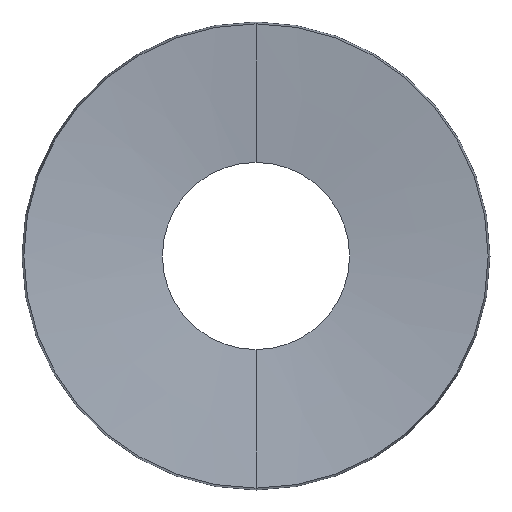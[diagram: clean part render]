
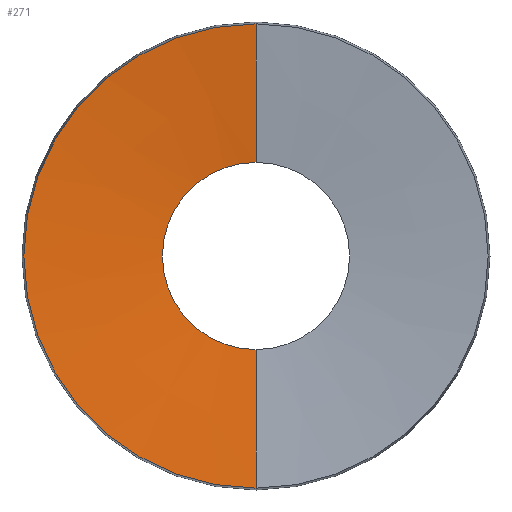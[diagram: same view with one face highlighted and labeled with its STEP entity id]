
A CAD part, front view. The second image highlights one B-rep face of the part: STEP entity #271.
In plain terms, the highlighted conical face has half-angle 83.934 degrees and reference radius 1.6 mm.
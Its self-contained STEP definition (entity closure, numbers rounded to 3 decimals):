
#36 = ORIENTED_EDGE ( 'NONE', *, *, #202, .F. ) ;
#50 = CARTESIAN_POINT ( 'NONE',  ( 0., 0., 3.968 ) ) ;
#51 = DIRECTION ( 'NONE',  ( 0., -0.106, -0.994 ) ) ;
#59 = DIRECTION ( 'NONE',  ( 0., 0., -1. ) ) ;
#60 = CARTESIAN_POINT ( 'NONE',  ( 0., 0.252, -1.6 ) ) ;
#62 = CIRCLE ( 'NONE', #232, 1.6 ) ;
#67 = CARTESIAN_POINT ( 'NONE',  ( 0., 0., 0. ) ) ;
#74 = CARTESIAN_POINT ( 'NONE',  ( 0., 0., -3.968 ) ) ;
#82 = CARTESIAN_POINT ( 'NONE',  ( 0., 0.252, 0. ) ) ;
#96 = DIRECTION ( 'NONE',  ( 0., -1., 0. ) ) ;
#99 = AXIS2_PLACEMENT_3D ( 'NONE', #67, #96, #59 ) ;
#118 = DIRECTION ( 'NONE',  ( 0., 0., -1. ) ) ;
#124 = CONICAL_SURFACE ( 'NONE', #258, 1.6, 1.465 ) ;
#132 = VERTEX_POINT ( 'NONE', #60 ) ;
#134 = VERTEX_POINT ( 'NONE', #50 ) ;
#135 = ORIENTED_EDGE ( 'NONE', *, *, #272, .F. ) ;
#144 = CARTESIAN_POINT ( 'NONE',  ( 0., 0.252, 1.6 ) ) ;
#145 = CIRCLE ( 'NONE', #99, 3.968 ) ;
#151 = LINE ( 'NONE', #190, #205 ) ;
#162 = DIRECTION ( 'NONE',  ( 0., -1., 0. ) ) ;
#178 = LINE ( 'NONE', #144, #286 ) ;
#186 = DIRECTION ( 'NONE',  ( 0., -1., 0. ) ) ;
#190 = CARTESIAN_POINT ( 'NONE',  ( 0., 0.252, -1.6 ) ) ;
#195 = EDGE_CURVE ( 'NONE', #134, #264, #145, .T. ) ;
#198 = DIRECTION ( 'NONE',  ( 0., -0.106, 0.994 ) ) ;
#202 = EDGE_CURVE ( 'NONE', #132, #264, #151, .T. ) ;
#205 = VECTOR ( 'NONE', #51, 1000. ) ;
#211 = FACE_OUTER_BOUND ( 'NONE', #250, .T. ) ;
#212 = CARTESIAN_POINT ( 'NONE',  ( 0., 0.252, 0. ) ) ;
#221 = VERTEX_POINT ( 'NONE', #263 ) ;
#232 = AXIS2_PLACEMENT_3D ( 'NONE', #212, #162, #253 ) ;
#237 = ORIENTED_EDGE ( 'NONE', *, *, #195, .T. ) ;
#250 = EDGE_LOOP ( 'NONE', ( #135, #284, #237, #36 ) ) ;
#253 = DIRECTION ( 'NONE',  ( 0., 0., -1. ) ) ;
#258 = AXIS2_PLACEMENT_3D ( 'NONE', #82, #186, #118 ) ;
#263 = CARTESIAN_POINT ( 'NONE',  ( 0., 0.252, 1.6 ) ) ;
#264 = VERTEX_POINT ( 'NONE', #74 ) ;
#271 = ADVANCED_FACE ( 'NONE', ( #211 ), #124, .F. ) ;
#272 = EDGE_CURVE ( 'NONE', #221, #132, #62, .T. ) ;
#284 = ORIENTED_EDGE ( 'NONE', *, *, #285, .T. ) ;
#285 = EDGE_CURVE ( 'NONE', #221, #134, #178, .T. ) ;
#286 = VECTOR ( 'NONE', #198, 1000. ) ;
